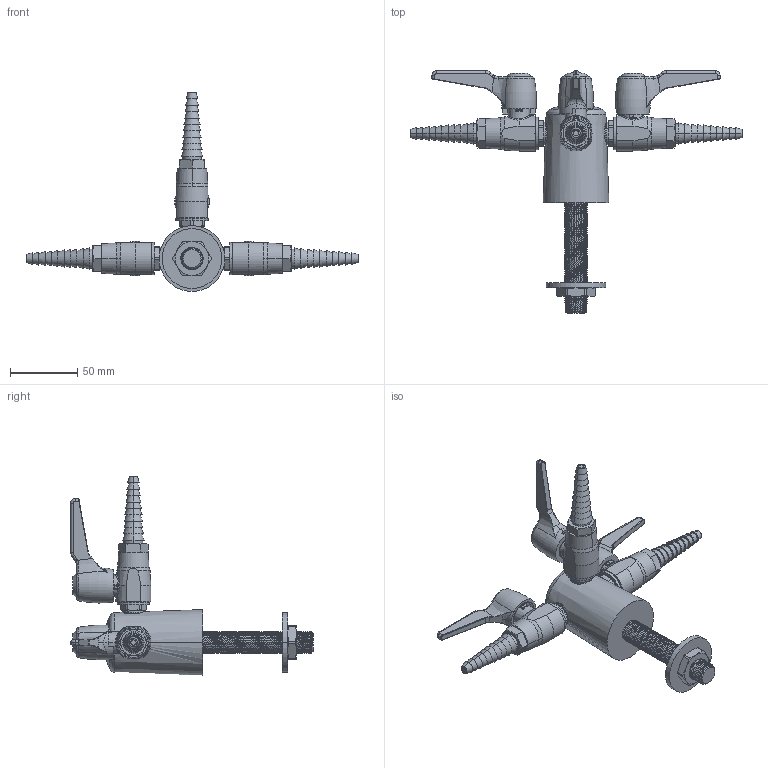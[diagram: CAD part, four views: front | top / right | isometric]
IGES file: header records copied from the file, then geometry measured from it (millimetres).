
Start section:  PTC IGES file: LGB1-31M-30.igs
Global section: file name: LGB1-31M-30.igs; native system: Creo Parametric by PTC Inc.; preprocessor: 2014500; author: usch_engrender; organization: Unknown; date: 20151130.134816; units: inch
Bounding box: 247.4 x 180.86 x 148.21 mm (x, y, z)
Volume: 229002 mm3; surface area: 79731.1 mm2
Topology: 4 solids, 4 shells, 1308 faces, 3191 edges, 1979 vertices
Faces by surface type: revolution 727, bspline 485, extrusion 96
